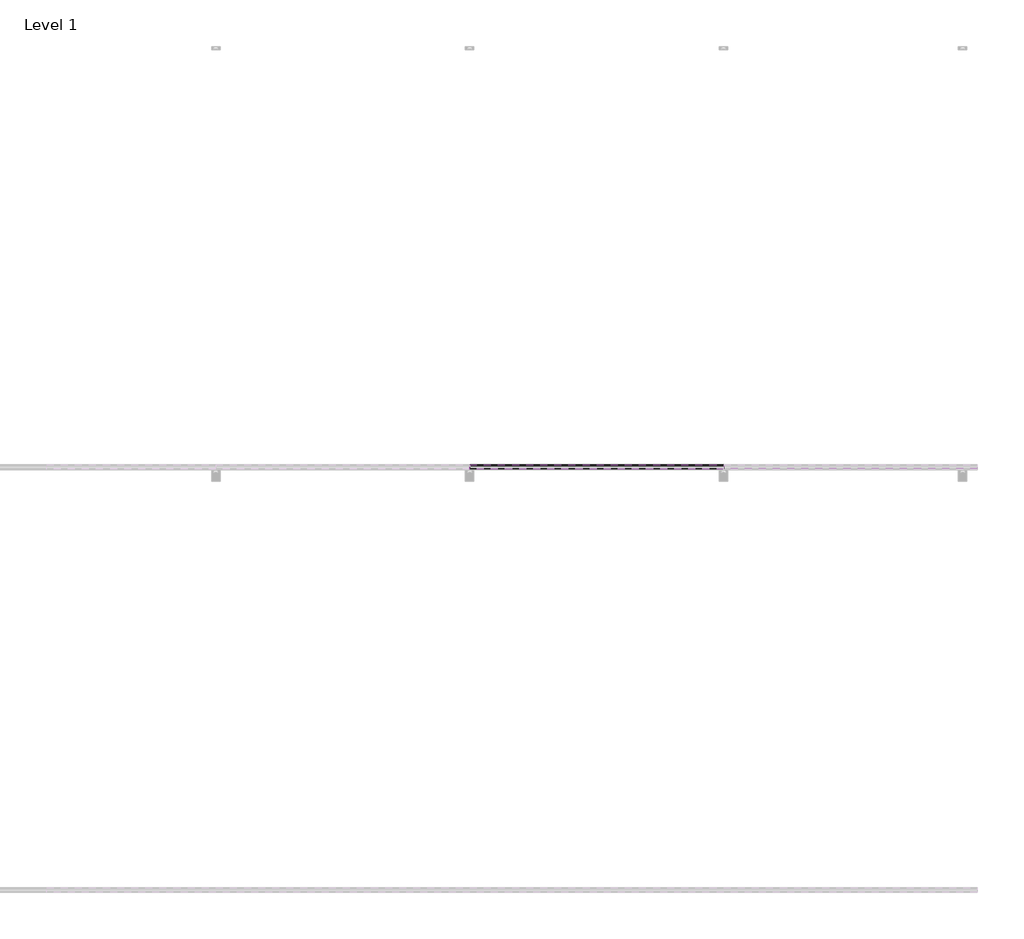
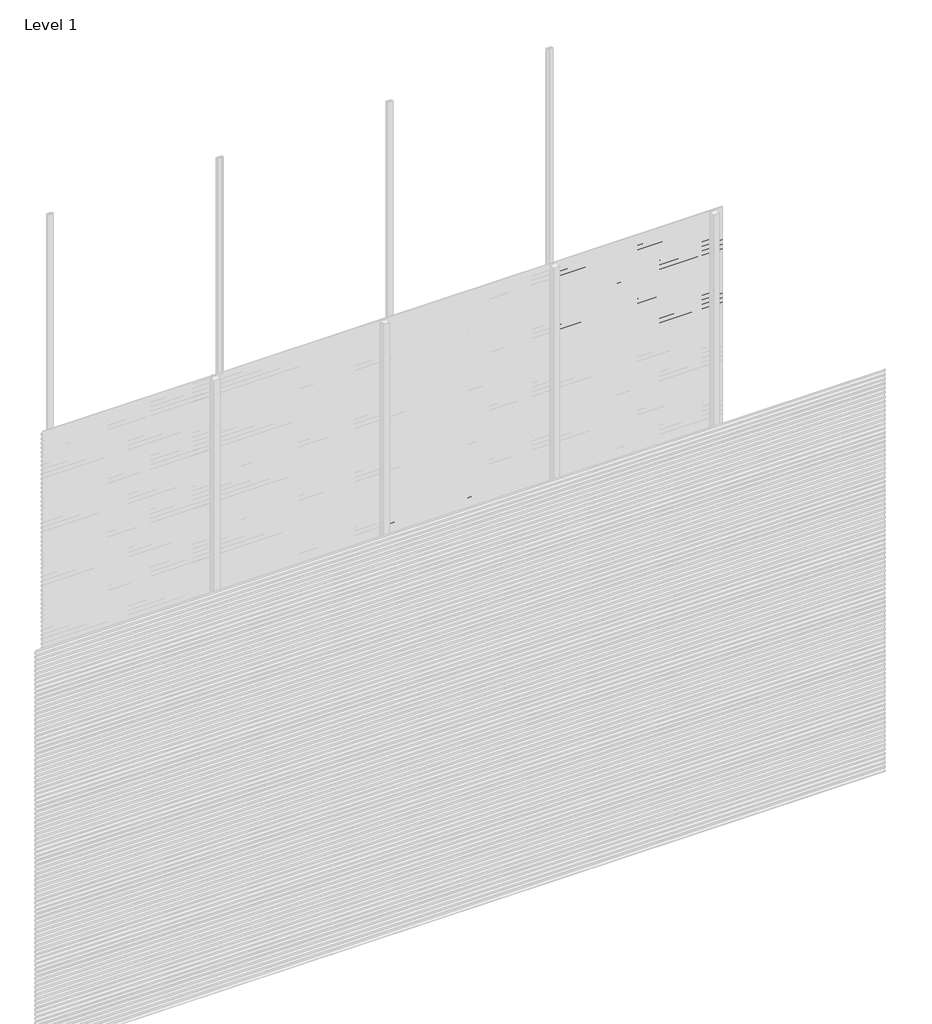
# One storey, part 39 of 77: 72 proxies.
"""IFC4 building model written with IfcOpenShell, lengths in millimetres."""

from ifc_helpers import new_model, si_unit, frame, origin, place, context, project, spatial, polyline, outline, extrude, element, save

model = new_model("IFC4")

# Units and contexts
model_context = context("Model", 3, world=origin())
ifc_project = project(units=[si_unit("LENGTHUNIT", "METRE", prefix="MILLI")], contexts=[model_context])

# Site, building, storey
site = spatial("IfcSite", under=ifc_project)
building = spatial("IfcBuilding", under=site)
storey = spatial("IfcBuildingStorey", under=building, Name="Level 1", Elevation=0.0)

# Proxies
placement = place(None, origin())
element("IfcBuildingElementProxy", 1, Name="Wall Sweeps", at=placement, inside=storey, context=model_context, shape_type="SweptSolid", body=[
    extrude(outline(polyline([(-29978.6, 1607.2359887), (-29998.0, 1618.4366691), (-29998.0, 1631.7), (-29997.0, 1631.7), (-29997.0, 1619.0191057), (-29977.6, 1607.8185105), (-29977.6, 1594.2185105), (-29978.6, 1595.7953129), (-29978.6, 1601.6032062), (-29995.9773817, 1593.5), (-29996.4, 1594.4063078), (-29978.6, 1602.7065841), (-29978.6, 1607.2359887)])), frame((3600.0, 0.0, 0.0), z_axis=(1.0, 0.0, 0.0), x_axis=(0.0, 1.0, 0.0)), (0.0, 0.0, 1.0), 1200.0),
])
element("IfcBuildingElementProxy", 2, Name="Wall Sweeps", at=placement, inside=storey, context=model_context, shape_type="SweptSolid", body=[
    extrude(outline(polyline([(-29978.6, 1573.9359887), (-29998.0, 1585.1366691), (-29998.0, 1598.4), (-29997.0, 1598.4), (-29997.0, 1585.7191057), (-29977.6, 1574.5185105), (-29977.6, 1560.9185105), (-29978.6, 1562.4953129), (-29978.6, 1568.3032062), (-29995.9773817, 1560.2), (-29996.4, 1561.1063078), (-29978.6, 1569.4065841), (-29978.6, 1573.9359887)])), frame((3600.0, 0.0, 0.0), z_axis=(1.0, 0.0, 0.0), x_axis=(0.0, 1.0, 0.0)), (0.0, 0.0, 1.0), 1200.0),
])
element("IfcBuildingElementProxy", 3, Name="Wall Sweeps", at=placement, inside=storey, context=model_context, shape_type="SweptSolid", body=[
    extrude(outline(polyline([(-29978.6, 1540.6359887), (-29998.0, 1551.8366691), (-29998.0, 1565.1), (-29997.0, 1565.1), (-29997.0, 1552.4191057), (-29977.6, 1541.2185105), (-29977.6, 1527.6185105), (-29978.6, 1529.1953129), (-29978.6, 1535.0032062), (-29995.9773817, 1526.9), (-29996.4, 1527.8063078), (-29978.6, 1536.1065841), (-29978.6, 1540.6359887)])), frame((3600.0, 0.0, 0.0), z_axis=(1.0, 0.0, 0.0), x_axis=(0.0, 1.0, 0.0)), (0.0, 0.0, 1.0), 1200.0),
])
element("IfcBuildingElementProxy", 4, Name="Wall Sweeps", at=placement, inside=storey, context=model_context, shape_type="SweptSolid", body=[
    extrude(outline(polyline([(-29978.6, 1507.3359887), (-29998.0, 1518.5366691), (-29998.0, 1531.8), (-29997.0, 1531.8), (-29997.0, 1519.1191057), (-29977.6, 1507.9185105), (-29977.6, 1494.3185105), (-29978.6, 1495.8953129), (-29978.6, 1501.7032062), (-29995.9773817, 1493.6), (-29996.4, 1494.5063078), (-29978.6, 1502.8065841), (-29978.6, 1507.3359887)])), frame((3600.0, 0.0, 0.0), z_axis=(1.0, 0.0, 0.0), x_axis=(0.0, 1.0, 0.0)), (0.0, 0.0, 1.0), 1200.0),
])
element("IfcBuildingElementProxy", 5, Name="Wall Sweeps", at=placement, inside=storey, context=model_context, shape_type="SweptSolid", body=[
    extrude(outline(polyline([(-29978.6, 1474.0359887), (-29998.0, 1485.2366691), (-29998.0, 1498.5), (-29997.0, 1498.5), (-29997.0, 1485.8191057), (-29977.6, 1474.6185105), (-29977.6, 1461.0185105), (-29978.6, 1462.5953129), (-29978.6, 1468.4032062), (-29995.9773817, 1460.3), (-29996.4, 1461.2063078), (-29978.6, 1469.5065841), (-29978.6, 1474.0359887)])), frame((3600.0, 0.0, 0.0), z_axis=(1.0, 0.0, 0.0), x_axis=(0.0, 1.0, 0.0)), (0.0, 0.0, 1.0), 1200.0),
])
element("IfcBuildingElementProxy", 6, Name="Wall Sweeps", at=placement, inside=storey, context=model_context, shape_type="SweptSolid", body=[
    extrude(outline(polyline([(-29978.6, 1440.7359887), (-29998.0, 1451.9366691), (-29998.0, 1465.2), (-29997.0, 1465.2), (-29997.0, 1452.5191057), (-29977.6, 1441.3185105), (-29977.6, 1427.7185105), (-29978.6, 1429.2953129), (-29978.6, 1435.1032062), (-29995.9773817, 1427.0), (-29996.4, 1427.9063078), (-29978.6, 1436.2065841), (-29978.6, 1440.7359887)])), frame((3600.0, 0.0, 0.0), z_axis=(1.0, 0.0, 0.0), x_axis=(0.0, 1.0, 0.0)), (0.0, 0.0, 1.0), 1200.0),
])
element("IfcBuildingElementProxy", 7, Name="Wall Sweeps", at=placement, inside=storey, context=model_context, shape_type="SweptSolid", body=[
    extrude(outline(polyline([(-29978.6, 1407.4359887), (-29998.0, 1418.6366691), (-29998.0, 1431.9), (-29997.0, 1431.9), (-29997.0, 1419.2191057), (-29977.6, 1408.0185105), (-29977.6, 1394.4185105), (-29978.6, 1395.9953129), (-29978.6, 1401.8032062), (-29995.9773817, 1393.7), (-29996.4, 1394.6063078), (-29978.6, 1402.9065841), (-29978.6, 1407.4359887)])), frame((3600.0, 0.0, 0.0), z_axis=(1.0, 0.0, 0.0), x_axis=(0.0, 1.0, 0.0)), (0.0, 0.0, 1.0), 1200.0),
])
element("IfcBuildingElementProxy", 8, Name="Wall Sweeps", at=placement, inside=storey, context=model_context, shape_type="SweptSolid", body=[
    extrude(outline(polyline([(-29978.6, 1374.1359887), (-29998.0, 1385.3366691), (-29998.0, 1398.6), (-29997.0, 1398.6), (-29997.0, 1385.9191057), (-29977.6, 1374.7185105), (-29977.6, 1361.1185105), (-29978.6, 1362.6953129), (-29978.6, 1368.5032062), (-29995.9773817, 1360.4), (-29996.4, 1361.3063078), (-29978.6, 1369.6065841), (-29978.6, 1374.1359887)])), frame((3600.0, 0.0, 0.0), z_axis=(1.0, 0.0, 0.0), x_axis=(0.0, 1.0, 0.0)), (0.0, 0.0, 1.0), 1200.0),
])
element("IfcBuildingElementProxy", 9, Name="Wall Sweeps", at=placement, inside=storey, context=model_context, shape_type="SweptSolid", body=[
    extrude(outline(polyline([(-29978.6, 1340.8359887), (-29998.0, 1352.0366691), (-29998.0, 1365.3), (-29997.0, 1365.3), (-29997.0, 1352.6191057), (-29977.6, 1341.4185105), (-29977.6, 1327.8185105), (-29978.6, 1329.3953129), (-29978.6, 1335.2032062), (-29995.9773817, 1327.1), (-29996.4, 1328.0063078), (-29978.6, 1336.3065841), (-29978.6, 1340.8359887)])), frame((3600.0, 0.0, 0.0), z_axis=(1.0, 0.0, 0.0), x_axis=(0.0, 1.0, 0.0)), (0.0, 0.0, 1.0), 1200.0),
])
element("IfcBuildingElementProxy", 10, Name="Wall Sweeps", at=placement, inside=storey, context=model_context, shape_type="SweptSolid", body=[
    extrude(outline(polyline([(-29978.6, 1307.5359887), (-29998.0, 1318.7366691), (-29998.0, 1332.0), (-29997.0, 1332.0), (-29997.0, 1319.3191057), (-29977.6, 1308.1185105), (-29977.6, 1294.5185105), (-29978.6, 1296.0953129), (-29978.6, 1301.9032062), (-29995.9773817, 1293.8), (-29996.4, 1294.7063078), (-29978.6, 1303.0065841), (-29978.6, 1307.5359887)])), frame((3600.0, 0.0, 0.0), z_axis=(1.0, 0.0, 0.0), x_axis=(0.0, 1.0, 0.0)), (0.0, 0.0, 1.0), 1200.0),
])
element("IfcBuildingElementProxy", 11, Name="Wall Sweeps", at=placement, inside=storey, context=model_context, shape_type="SweptSolid", body=[
    extrude(outline(polyline([(-29978.6, 1274.2359887), (-29998.0, 1285.4366691), (-29998.0, 1298.7), (-29997.0, 1298.7), (-29997.0, 1286.0191057), (-29977.6, 1274.8185105), (-29977.6, 1261.2185105), (-29978.6, 1262.7953129), (-29978.6, 1268.6032062), (-29995.9773817, 1260.5), (-29996.4, 1261.4063078), (-29978.6, 1269.7065841), (-29978.6, 1274.2359887)])), frame((3600.0, 0.0, 0.0), z_axis=(1.0, 0.0, 0.0), x_axis=(0.0, 1.0, 0.0)), (0.0, 0.0, 1.0), 1200.0),
])
element("IfcBuildingElementProxy", 12, Name="Wall Sweeps", at=placement, inside=storey, context=model_context, shape_type="SweptSolid", body=[
    extrude(outline(polyline([(-29978.6, 1240.9359887), (-29998.0, 1252.1366691), (-29998.0, 1265.4), (-29997.0, 1265.4), (-29997.0, 1252.7191057), (-29977.6, 1241.5185105), (-29977.6, 1227.9185105), (-29978.6, 1229.4953129), (-29978.6, 1235.3032062), (-29995.9773817, 1227.2), (-29996.4, 1228.1063078), (-29978.6, 1236.4065841), (-29978.6, 1240.9359887)])), frame((3600.0, 0.0, 0.0), z_axis=(1.0, 0.0, 0.0), x_axis=(0.0, 1.0, 0.0)), (0.0, 0.0, 1.0), 1200.0),
])
element("IfcBuildingElementProxy", 13, Name="Wall Sweeps", at=placement, inside=storey, context=model_context, shape_type="SweptSolid", body=[
    extrude(outline(polyline([(-29978.6, 1207.6359887), (-29998.0, 1218.8366691), (-29998.0, 1232.1), (-29997.0, 1232.1), (-29997.0, 1219.4191057), (-29977.6, 1208.2185105), (-29977.6, 1194.6185105), (-29978.6, 1196.1953129), (-29978.6, 1202.0032062), (-29995.9773817, 1193.9), (-29996.4, 1194.8063078), (-29978.6, 1203.1065841), (-29978.6, 1207.6359887)])), frame((3600.0, 0.0, 0.0), z_axis=(1.0, 0.0, 0.0), x_axis=(0.0, 1.0, 0.0)), (0.0, 0.0, 1.0), 1200.0),
])
element("IfcBuildingElementProxy", 14, Name="Wall Sweeps", at=placement, inside=storey, context=model_context, shape_type="SweptSolid", body=[
    extrude(outline(polyline([(-29978.6, 1174.3359887), (-29998.0, 1185.5366691), (-29998.0, 1198.8), (-29997.0, 1198.8), (-29997.0, 1186.1191057), (-29977.6, 1174.9185105), (-29977.6, 1161.3185105), (-29978.6, 1162.8953129), (-29978.6, 1168.7032062), (-29995.9773817, 1160.6), (-29996.4, 1161.5063078), (-29978.6, 1169.8065841), (-29978.6, 1174.3359887)])), frame((3600.0, 0.0, 0.0), z_axis=(1.0, 0.0, 0.0), x_axis=(0.0, 1.0, 0.0)), (0.0, 0.0, 1.0), 1200.0),
])
element("IfcBuildingElementProxy", 15, Name="Wall Sweeps", at=placement, inside=storey, context=model_context, shape_type="SweptSolid", body=[
    extrude(outline(polyline([(-29978.6, 1141.0359887), (-29998.0, 1152.2366691), (-29998.0, 1165.5), (-29997.0, 1165.5), (-29997.0, 1152.8191057), (-29977.6, 1141.6185105), (-29977.6, 1128.0185105), (-29978.6, 1129.5953129), (-29978.6, 1135.4032062), (-29995.9773817, 1127.3), (-29996.4, 1128.2063078), (-29978.6, 1136.5065841), (-29978.6, 1141.0359887)])), frame((3600.0, 0.0, 0.0), z_axis=(1.0, 0.0, 0.0), x_axis=(0.0, 1.0, 0.0)), (0.0, 0.0, 1.0), 1200.0),
])
element("IfcBuildingElementProxy", 16, Name="Wall Sweeps", at=placement, inside=storey, context=model_context, shape_type="SweptSolid", body=[
    extrude(outline(polyline([(-29978.6, 1107.7359887), (-29998.0, 1118.9366691), (-29998.0, 1132.2), (-29997.0, 1132.2), (-29997.0, 1119.5191057), (-29977.6, 1108.3185105), (-29977.6, 1094.7185105), (-29978.6, 1096.2953129), (-29978.6, 1102.1032062), (-29995.9773817, 1094.0), (-29996.4, 1094.9063078), (-29978.6, 1103.2065841), (-29978.6, 1107.7359887)])), frame((3600.0, 0.0, 0.0), z_axis=(1.0, 0.0, 0.0), x_axis=(0.0, 1.0, 0.0)), (0.0, 0.0, 1.0), 1200.0),
])
element("IfcBuildingElementProxy", 17, Name="Wall Sweeps", at=placement, inside=storey, context=model_context, shape_type="SweptSolid", body=[
    extrude(outline(polyline([(-29978.6, 1074.4359887), (-29998.0, 1085.6366691), (-29998.0, 1098.9), (-29997.0, 1098.9), (-29997.0, 1086.2191057), (-29977.6, 1075.0185105), (-29977.6, 1061.4185105), (-29978.6, 1062.9953129), (-29978.6, 1068.8032062), (-29995.9773817, 1060.7), (-29996.4, 1061.6063078), (-29978.6, 1069.9065841), (-29978.6, 1074.4359887)])), frame((3600.0, 0.0, 0.0), z_axis=(1.0, 0.0, 0.0), x_axis=(0.0, 1.0, 0.0)), (0.0, 0.0, 1.0), 1200.0),
])
element("IfcBuildingElementProxy", 18, Name="Wall Sweeps", at=placement, inside=storey, context=model_context, shape_type="SweptSolid", body=[
    extrude(outline(polyline([(-29978.6, 1041.1359887), (-29998.0, 1052.3366691), (-29998.0, 1065.6), (-29997.0, 1065.6), (-29997.0, 1052.9191057), (-29977.6, 1041.7185105), (-29977.6, 1028.1185105), (-29978.6, 1029.6953129), (-29978.6, 1035.5032062), (-29995.9773817, 1027.4), (-29996.4, 1028.3063078), (-29978.6, 1036.6065841), (-29978.6, 1041.1359887)])), frame((3600.0, 0.0, 0.0), z_axis=(1.0, 0.0, 0.0), x_axis=(0.0, 1.0, 0.0)), (0.0, 0.0, 1.0), 1200.0),
])
element("IfcBuildingElementProxy", 19, Name="Wall Sweeps", at=placement, inside=storey, context=model_context, shape_type="SweptSolid", body=[
    extrude(outline(polyline([(-29978.6, 1007.8359887), (-29998.0, 1019.0366691), (-29998.0, 1032.3), (-29997.0, 1032.3), (-29997.0, 1019.6191057), (-29977.6, 1008.4185105), (-29977.6, 994.8185105), (-29978.6, 996.3953129), (-29978.6, 1002.2032062), (-29995.9773817, 994.1), (-29996.4, 995.0063078), (-29978.6, 1003.3065841), (-29978.6, 1007.8359887)])), frame((3600.0, 0.0, 0.0), z_axis=(1.0, 0.0, 0.0), x_axis=(0.0, 1.0, 0.0)), (0.0, 0.0, 1.0), 1200.0),
])
element("IfcBuildingElementProxy", 20, Name="Wall Sweeps", at=placement, inside=storey, context=model_context, shape_type="SweptSolid", body=[
    extrude(outline(polyline([(-29978.6, 974.5359887), (-29998.0, 985.7366691), (-29998.0, 999.0), (-29997.0, 999.0), (-29997.0, 986.3191057), (-29977.6, 975.1185105), (-29977.6, 961.5185105), (-29978.6, 963.0953129), (-29978.6, 968.9032062), (-29995.9773817, 960.8), (-29996.4, 961.7063078), (-29978.6, 970.0065841), (-29978.6, 974.5359887)])), frame((3600.0, 0.0, 0.0), z_axis=(1.0, 0.0, 0.0), x_axis=(0.0, 1.0, 0.0)), (0.0, 0.0, 1.0), 1200.0),
])
element("IfcBuildingElementProxy", 21, Name="Wall Sweeps", at=placement, inside=storey, context=model_context, shape_type="SweptSolid", body=[
    extrude(outline(polyline([(-29978.6, 941.2359887), (-29998.0, 952.4366691), (-29998.0, 965.7), (-29997.0, 965.7), (-29997.0, 953.0191057), (-29977.6, 941.8185105), (-29977.6, 928.2185105), (-29978.6, 929.7953129), (-29978.6, 935.6032062), (-29995.9773817, 927.5), (-29996.4, 928.4063078), (-29978.6, 936.7065841), (-29978.6, 941.2359887)])), frame((3600.0, 0.0, 0.0), z_axis=(1.0, 0.0, 0.0), x_axis=(0.0, 1.0, 0.0)), (0.0, 0.0, 1.0), 1200.0),
])
element("IfcBuildingElementProxy", 22, Name="Wall Sweeps", at=placement, inside=storey, context=model_context, shape_type="SweptSolid", body=[
    extrude(outline(polyline([(-29978.6, 907.9359887), (-29998.0, 919.1366691), (-29998.0, 932.4), (-29997.0, 932.4), (-29997.0, 919.7191057), (-29977.6, 908.5185105), (-29977.6, 894.9185105), (-29978.6, 896.4953129), (-29978.6, 902.3032062), (-29995.9773817, 894.2), (-29996.4, 895.1063078), (-29978.6, 903.4065841), (-29978.6, 907.9359887)])), frame((3600.0, 0.0, 0.0), z_axis=(1.0, 0.0, 0.0), x_axis=(0.0, 1.0, 0.0)), (0.0, 0.0, 1.0), 1200.0),
])
element("IfcBuildingElementProxy", 23, Name="Wall Sweeps", at=placement, inside=storey, context=model_context, shape_type="SweptSolid", body=[
    extrude(outline(polyline([(-29978.6, 874.6359887), (-29998.0, 885.8366691), (-29998.0, 899.1), (-29997.0, 899.1), (-29997.0, 886.4191057), (-29977.6, 875.2185105), (-29977.6, 861.6185105), (-29978.6, 863.1953129), (-29978.6, 869.0032062), (-29995.9773817, 860.9), (-29996.4, 861.8063078), (-29978.6, 870.1065841), (-29978.6, 874.6359887)])), frame((3600.0, 0.0, 0.0), z_axis=(1.0, 0.0, 0.0), x_axis=(0.0, 1.0, 0.0)), (0.0, 0.0, 1.0), 1200.0),
])
element("IfcBuildingElementProxy", 24, Name="Wall Sweeps", at=placement, inside=storey, context=model_context, shape_type="SweptSolid", body=[
    extrude(outline(polyline([(-29978.6, 841.3359887), (-29998.0, 852.5366691), (-29998.0, 865.8), (-29997.0, 865.8), (-29997.0, 853.1191057), (-29977.6, 841.9185105), (-29977.6, 828.3185105), (-29978.6, 829.8953129), (-29978.6, 835.7032062), (-29995.9773817, 827.6), (-29996.4, 828.5063078), (-29978.6, 836.8065841), (-29978.6, 841.3359887)])), frame((3600.0, 0.0, 0.0), z_axis=(1.0, 0.0, 0.0), x_axis=(0.0, 1.0, 0.0)), (0.0, 0.0, 1.0), 1200.0),
])
element("IfcBuildingElementProxy", 25, Name="Wall Sweeps", at=placement, inside=storey, context=model_context, shape_type="SweptSolid", body=[
    extrude(outline(polyline([(-29978.6, 808.0359887), (-29998.0, 819.2366691), (-29998.0, 832.5), (-29997.0, 832.5), (-29997.0, 819.8191057), (-29977.6, 808.6185105), (-29977.6, 795.0185105), (-29978.6, 796.5953129), (-29978.6, 802.4032062), (-29995.9773817, 794.3), (-29996.4, 795.2063078), (-29978.6, 803.5065841), (-29978.6, 808.0359887)])), frame((3600.0, 0.0, 0.0), z_axis=(1.0, 0.0, 0.0), x_axis=(0.0, 1.0, 0.0)), (0.0, 0.0, 1.0), 1200.0),
])
element("IfcBuildingElementProxy", 26, Name="Wall Sweeps", at=placement, inside=storey, context=model_context, shape_type="SweptSolid", body=[
    extrude(outline(polyline([(-29978.6, 774.7359887), (-29998.0, 785.9366691), (-29998.0, 799.2), (-29997.0, 799.2), (-29997.0, 786.5191057), (-29977.6, 775.3185105), (-29977.6, 761.7185105), (-29978.6, 763.2953129), (-29978.6, 769.1032062), (-29995.9773817, 761.0), (-29996.4, 761.9063078), (-29978.6, 770.2065841), (-29978.6, 774.7359887)])), frame((3600.0, 0.0, 0.0), z_axis=(1.0, 0.0, 0.0), x_axis=(0.0, 1.0, 0.0)), (0.0, 0.0, 1.0), 1200.0),
])
element("IfcBuildingElementProxy", 27, Name="Wall Sweeps", at=placement, inside=storey, context=model_context, shape_type="SweptSolid", body=[
    extrude(outline(polyline([(-29978.6, 741.4359887), (-29998.0, 752.6366691), (-29998.0, 765.9), (-29997.0, 765.9), (-29997.0, 753.2191057), (-29977.6, 742.0185105), (-29977.6, 728.4185105), (-29978.6, 729.9953129), (-29978.6, 735.8032062), (-29995.9773817, 727.7), (-29996.4, 728.6063078), (-29978.6, 736.9065841), (-29978.6, 741.4359887)])), frame((3600.0, 0.0, 0.0), z_axis=(1.0, 0.0, 0.0), x_axis=(0.0, 1.0, 0.0)), (0.0, 0.0, 1.0), 1200.0),
])
element("IfcBuildingElementProxy", 28, Name="Wall Sweeps", at=placement, inside=storey, context=model_context, shape_type="SweptSolid", body=[
    extrude(outline(polyline([(-29978.6, 708.1359887), (-29998.0, 719.3366691), (-29998.0, 732.6), (-29997.0, 732.6), (-29997.0, 719.9191057), (-29977.6, 708.7185105), (-29977.6, 695.1185105), (-29978.6, 696.6953129), (-29978.6, 702.5032062), (-29995.9773817, 694.4), (-29996.4, 695.3063078), (-29978.6, 703.6065841), (-29978.6, 708.1359887)])), frame((3600.0, 0.0, 0.0), z_axis=(1.0, 0.0, 0.0), x_axis=(0.0, 1.0, 0.0)), (0.0, 0.0, 1.0), 1200.0),
])
element("IfcBuildingElementProxy", 29, Name="Wall Sweeps", at=placement, inside=storey, context=model_context, shape_type="SweptSolid", body=[
    extrude(outline(polyline([(-29978.6, 674.8359887), (-29998.0, 686.0366691), (-29998.0, 699.3), (-29997.0, 699.3), (-29997.0, 686.6191057), (-29977.6, 675.4185105), (-29977.6, 661.8185105), (-29978.6, 663.3953129), (-29978.6, 669.2032062), (-29995.9773817, 661.1), (-29996.4, 662.0063078), (-29978.6, 670.3065841), (-29978.6, 674.8359887)])), frame((3600.0, 0.0, 0.0), z_axis=(1.0, 0.0, 0.0), x_axis=(0.0, 1.0, 0.0)), (0.0, 0.0, 1.0), 1200.0),
])
element("IfcBuildingElementProxy", 30, Name="Wall Sweeps", at=placement, inside=storey, context=model_context, shape_type="SweptSolid", body=[
    extrude(outline(polyline([(-29978.6, 641.5359887), (-29998.0, 652.7366691), (-29998.0, 666.0), (-29997.0, 666.0), (-29997.0, 653.3191057), (-29977.6, 642.1185105), (-29977.6, 628.5185105), (-29978.6, 630.0953129), (-29978.6, 635.9032062), (-29995.9773817, 627.8), (-29996.4, 628.7063078), (-29978.6, 637.0065841), (-29978.6, 641.5359887)])), frame((3600.0, 0.0, 0.0), z_axis=(1.0, 0.0, 0.0), x_axis=(0.0, 1.0, 0.0)), (0.0, 0.0, 1.0), 1200.0),
])
element("IfcBuildingElementProxy", 31, Name="Wall Sweeps", at=placement, inside=storey, context=model_context, shape_type="SweptSolid", body=[
    extrude(outline(polyline([(-29978.6, 608.2359887), (-29998.0, 619.4366691), (-29998.0, 632.7), (-29997.0, 632.7), (-29997.0, 620.0191057), (-29977.6, 608.8185105), (-29977.6, 595.2185105), (-29978.6, 596.7953129), (-29978.6, 602.6032062), (-29995.9773817, 594.5), (-29996.4, 595.4063078), (-29978.6, 603.7065841), (-29978.6, 608.2359887)])), frame((3600.0, 0.0, 0.0), z_axis=(1.0, 0.0, 0.0), x_axis=(0.0, 1.0, 0.0)), (0.0, 0.0, 1.0), 1200.0),
])
element("IfcBuildingElementProxy", 32, Name="Wall Sweeps", at=placement, inside=storey, context=model_context, shape_type="SweptSolid", body=[
    extrude(outline(polyline([(-29978.6, 574.9359887), (-29998.0, 586.1366691), (-29998.0, 599.4), (-29997.0, 599.4), (-29997.0, 586.7191057), (-29977.6, 575.5185105), (-29977.6, 561.9185105), (-29978.6, 563.4953129), (-29978.6, 569.3032062), (-29995.9773817, 561.2), (-29996.4, 562.1063078), (-29978.6, 570.4065841), (-29978.6, 574.9359887)])), frame((3600.0, 0.0, 0.0), z_axis=(1.0, 0.0, 0.0), x_axis=(0.0, 1.0, 0.0)), (0.0, 0.0, 1.0), 1200.0),
])
element("IfcBuildingElementProxy", 33, Name="Wall Sweeps", at=placement, inside=storey, context=model_context, shape_type="SweptSolid", body=[
    extrude(outline(polyline([(-29978.6, 541.6359887), (-29998.0, 552.8366691), (-29998.0, 566.1), (-29997.0, 566.1), (-29997.0, 553.4191057), (-29977.6, 542.2185105), (-29977.6, 528.6185105), (-29978.6, 530.1953129), (-29978.6, 536.0032062), (-29995.9773817, 527.9), (-29996.4, 528.8063078), (-29978.6, 537.1065841), (-29978.6, 541.6359887)])), frame((3600.0, 0.0, 0.0), z_axis=(1.0, 0.0, 0.0), x_axis=(0.0, 1.0, 0.0)), (0.0, 0.0, 1.0), 1200.0),
])
element("IfcBuildingElementProxy", 34, Name="Wall Sweeps", at=placement, inside=storey, context=model_context, shape_type="SweptSolid", body=[
    extrude(outline(polyline([(-29978.6, 508.3359887), (-29998.0, 519.5366691), (-29998.0, 532.8), (-29997.0, 532.8), (-29997.0, 520.1191057), (-29977.6, 508.9185105), (-29977.6, 495.3185105), (-29978.6, 496.8953129), (-29978.6, 502.7032062), (-29995.9773817, 494.6), (-29996.4, 495.5063078), (-29978.6, 503.8065841), (-29978.6, 508.3359887)])), frame((3600.0, 0.0, 0.0), z_axis=(1.0, 0.0, 0.0), x_axis=(0.0, 1.0, 0.0)), (0.0, 0.0, 1.0), 1200.0),
])
element("IfcBuildingElementProxy", 35, Name="Wall Sweeps", at=placement, inside=storey, context=model_context, shape_type="SweptSolid", body=[
    extrude(outline(polyline([(-29978.6, 475.0359887), (-29998.0, 486.2366691), (-29998.0, 499.5), (-29997.0, 499.5), (-29997.0, 486.8191057), (-29977.6, 475.6185105), (-29977.6, 462.0185105), (-29978.6, 463.5953129), (-29978.6, 469.4032062), (-29995.9773817, 461.3), (-29996.4, 462.2063078), (-29978.6, 470.5065841), (-29978.6, 475.0359887)])), frame((3600.0, 0.0, 0.0), z_axis=(1.0, 0.0, 0.0), x_axis=(0.0, 1.0, 0.0)), (0.0, 0.0, 1.0), 1200.0),
])
element("IfcBuildingElementProxy", 36, Name="Wall Sweeps", at=placement, inside=storey, context=model_context, shape_type="SweptSolid", body=[
    extrude(outline(polyline([(-29978.6, 441.7359887), (-29998.0, 452.9366691), (-29998.0, 466.2), (-29997.0, 466.2), (-29997.0, 453.5191057), (-29977.6, 442.3185105), (-29977.6, 428.7185105), (-29978.6, 430.2953129), (-29978.6, 436.1032062), (-29995.9773817, 428.0), (-29996.4, 428.9063078), (-29978.6, 437.2065841), (-29978.6, 441.7359887)])), frame((3600.0, 0.0, 0.0), z_axis=(1.0, 0.0, 0.0), x_axis=(0.0, 1.0, 0.0)), (0.0, 0.0, 1.0), 1200.0),
])
element("IfcBuildingElementProxy", 37, Name="Wall Sweeps", at=placement, inside=storey, context=model_context, shape_type="SweptSolid", body=[
    extrude(outline(polyline([(-29978.6, 408.4359887), (-29998.0, 419.6366691), (-29998.0, 432.9), (-29997.0, 432.9), (-29997.0, 420.2191057), (-29977.6, 409.0185105), (-29977.6, 395.4185105), (-29978.6, 396.9953129), (-29978.6, 402.8032062), (-29995.9773817, 394.7), (-29996.4, 395.6063078), (-29978.6, 403.9065841), (-29978.6, 408.4359887)])), frame((3600.0, 0.0, 0.0), z_axis=(1.0, 0.0, 0.0), x_axis=(0.0, 1.0, 0.0)), (0.0, 0.0, 1.0), 1200.0),
])
element("IfcBuildingElementProxy", 38, Name="Wall Sweeps", at=placement, inside=storey, context=model_context, shape_type="SweptSolid", body=[
    extrude(outline(polyline([(-29978.6, 375.1359887), (-29998.0, 386.3366691), (-29998.0, 399.6), (-29997.0, 399.6), (-29997.0, 386.9191057), (-29977.6, 375.7185105), (-29977.6, 362.1185105), (-29978.6, 363.6953129), (-29978.6, 369.5032062), (-29995.9773817, 361.4), (-29996.4, 362.3063078), (-29978.6, 370.6065841), (-29978.6, 375.1359887)])), frame((3600.0, 0.0, 0.0), z_axis=(1.0, 0.0, 0.0), x_axis=(0.0, 1.0, 0.0)), (0.0, 0.0, 1.0), 1200.0),
])
element("IfcBuildingElementProxy", 39, Name="Wall Sweeps", at=placement, inside=storey, context=model_context, shape_type="SweptSolid", body=[
    extrude(outline(polyline([(-29978.6, 341.8359887), (-29998.0, 353.0366691), (-29998.0, 366.3), (-29997.0, 366.3), (-29997.0, 353.6191057), (-29977.6, 342.4185105), (-29977.6, 328.8185105), (-29978.6, 330.3953129), (-29978.6, 336.2032062), (-29995.9773817, 328.1), (-29996.4, 329.0063078), (-29978.6, 337.3065841), (-29978.6, 341.8359887)])), frame((3600.0, 0.0, 0.0), z_axis=(1.0, 0.0, 0.0), x_axis=(0.0, 1.0, 0.0)), (0.0, 0.0, 1.0), 1200.0),
])
element("IfcBuildingElementProxy", 40, Name="Wall Sweeps", at=placement, inside=storey, context=model_context, shape_type="SweptSolid", body=[
    extrude(outline(polyline([(-29978.6, 308.5359887), (-29998.0, 319.7366691), (-29998.0, 333.0), (-29997.0, 333.0), (-29997.0, 320.3191057), (-29977.6, 309.1185105), (-29977.6, 295.5185105), (-29978.6, 297.0953129), (-29978.6, 302.9032062), (-29995.9773817, 294.8), (-29996.4, 295.7063078), (-29978.6, 304.0065841), (-29978.6, 308.5359887)])), frame((3600.0, 0.0, 0.0), z_axis=(1.0, 0.0, 0.0), x_axis=(0.0, 1.0, 0.0)), (0.0, 0.0, 1.0), 1200.0),
])
element("IfcBuildingElementProxy", 41, Name="Wall Sweeps", at=placement, inside=storey, context=model_context, shape_type="SweptSolid", body=[
    extrude(outline(polyline([(-29978.6, 275.2359887), (-29998.0, 286.4366691), (-29998.0, 299.7), (-29997.0, 299.7), (-29997.0, 287.0191057), (-29977.6, 275.8185105), (-29977.6, 262.2185105), (-29978.6, 263.7953129), (-29978.6, 269.6032062), (-29995.9773817, 261.5), (-29996.4, 262.4063078), (-29978.6, 270.7065841), (-29978.6, 275.2359887)])), frame((3600.0, 0.0, 0.0), z_axis=(1.0, 0.0, 0.0), x_axis=(0.0, 1.0, 0.0)), (0.0, 0.0, 1.0), 1200.0),
])
element("IfcBuildingElementProxy", 42, Name="Wall Sweeps", at=placement, inside=storey, context=model_context, shape_type="SweptSolid", body=[
    extrude(outline(polyline([(-29978.6, 241.9359887), (-29998.0, 253.1366691), (-29998.0, 266.4), (-29997.0, 266.4), (-29997.0, 253.7191057), (-29977.6, 242.5185105), (-29977.6, 228.9185105), (-29978.6, 230.4953129), (-29978.6, 236.3032062), (-29995.9773817, 228.2), (-29996.4, 229.1063078), (-29978.6, 237.4065841), (-29978.6, 241.9359887)])), frame((3600.0, 0.0, 0.0), z_axis=(1.0, 0.0, 0.0), x_axis=(0.0, 1.0, 0.0)), (0.0, 0.0, 1.0), 1200.0),
])
element("IfcBuildingElementProxy", 43, Name="Wall Sweeps", at=placement, inside=storey, context=model_context, shape_type="SweptSolid", body=[
    extrude(outline(polyline([(-29978.6, 208.6359887), (-29998.0, 219.8366691), (-29998.0, 233.1), (-29997.0, 233.1), (-29997.0, 220.4191057), (-29977.6, 209.2185105), (-29977.6, 195.6185105), (-29978.6, 197.1953129), (-29978.6, 203.0032062), (-29995.9773817, 194.9), (-29996.4, 195.8063078), (-29978.6, 204.1065841), (-29978.6, 208.6359887)])), frame((3600.0, 0.0, 0.0), z_axis=(1.0, 0.0, 0.0), x_axis=(0.0, 1.0, 0.0)), (0.0, 0.0, 1.0), 1200.0),
])
element("IfcBuildingElementProxy", 44, Name="Wall Sweeps", at=placement, inside=storey, context=model_context, shape_type="SweptSolid", body=[
    extrude(outline(polyline([(-29978.6, 175.3359887), (-29998.0, 186.5366691), (-29998.0, 199.8), (-29997.0, 199.8), (-29997.0, 187.1191057), (-29977.6, 175.9185105), (-29977.6, 162.3185105), (-29978.6, 163.8953129), (-29978.6, 169.7032062), (-29995.9773817, 161.6), (-29996.4, 162.5063078), (-29978.6, 170.8065841), (-29978.6, 175.3359887)])), frame((3600.0, 0.0, 0.0), z_axis=(1.0, 0.0, 0.0), x_axis=(0.0, 1.0, 0.0)), (0.0, 0.0, 1.0), 1200.0),
])
element("IfcBuildingElementProxy", 45, Name="Wall Sweeps", at=placement, inside=storey, context=model_context, shape_type="SweptSolid", body=[
    extrude(outline(polyline([(-29978.6, 142.0359887), (-29998.0, 153.2366691), (-29998.0, 166.5), (-29997.0, 166.5), (-29997.0, 153.8191057), (-29977.6, 142.6185105), (-29977.6, 129.0185105), (-29978.6, 130.5953129), (-29978.6, 136.4032062), (-29995.9773817, 128.3), (-29996.4, 129.2063078), (-29978.6, 137.5065841), (-29978.6, 142.0359887)])), frame((3600.0, 0.0, 0.0), z_axis=(1.0, 0.0, 0.0), x_axis=(0.0, 1.0, 0.0)), (0.0, 0.0, 1.0), 1200.0),
])
element("IfcBuildingElementProxy", 46, Name="Wall Sweeps", at=placement, inside=storey, context=model_context, shape_type="SweptSolid", body=[
    extrude(outline(polyline([(-29978.6, 108.7359887), (-29998.0, 119.9366691), (-29998.0, 133.2), (-29997.0, 133.2), (-29997.0, 120.5191057), (-29977.6, 109.3185105), (-29977.6, 95.7185105), (-29978.6, 97.2953129), (-29978.6, 103.1032062), (-29995.9773817, 95.0), (-29996.4, 95.9063078), (-29978.6, 104.2065841), (-29978.6, 108.7359887)])), frame((3600.0, 0.0, 0.0), z_axis=(1.0, 0.0, 0.0), x_axis=(0.0, 1.0, 0.0)), (0.0, 0.0, 1.0), 1200.0),
])
element("IfcBuildingElementProxy", 47, Name="Wall Sweeps", at=placement, inside=storey, context=model_context, shape_type="SweptSolid", body=[
    extrude(outline(polyline([(-29978.6, 75.4359887), (-29998.0, 86.6366691), (-29998.0, 99.9), (-29997.0, 99.9), (-29997.0, 87.2191057), (-29977.6, 76.0185105), (-29977.6, 62.4185105), (-29978.6, 63.9953129), (-29978.6, 69.8032062), (-29995.9773817, 61.7), (-29996.4, 62.6063078), (-29978.6, 70.9065841), (-29978.6, 75.4359887)])), frame((3600.0, 0.0, 0.0), z_axis=(1.0, 0.0, 0.0), x_axis=(0.0, 1.0, 0.0)), (0.0, 0.0, 1.0), 1200.0),
])
element("IfcBuildingElementProxy", 48, Name="Wall Sweeps", at=placement, inside=storey, context=model_context, shape_type="SweptSolid", body=[
    extrude(outline(polyline([(-29978.6, 42.1359887), (-29998.0, 53.3366691), (-29998.0, 66.6), (-29997.0, 66.6), (-29997.0, 53.9191057), (-29977.6, 42.7185105), (-29977.6, 29.1185105), (-29978.6, 30.6953129), (-29978.6, 36.5032062), (-29995.9773817, 28.4), (-29996.4, 29.3063078), (-29978.6, 37.6065841), (-29978.6, 42.1359887)])), frame((3600.0, 0.0, 0.0), z_axis=(1.0, 0.0, 0.0), x_axis=(0.0, 1.0, 0.0)), (0.0, 0.0, 1.0), 1200.0),
])
element("IfcBuildingElementProxy", 49, Name="Wall Sweeps", at=placement, inside=storey, context=model_context, shape_type="SweptSolid", body=[
    extrude(outline(polyline([(-29978.6, 8.8359887), (-29998.0, 20.0366691), (-29998.0, 33.3), (-29997.0, 33.3), (-29997.0, 20.6191057), (-29977.6, 9.4185105), (-29977.6, -4.1814895), (-29978.6, -2.6046871), (-29978.6, 3.2032062), (-29995.9773817, -4.9), (-29996.4, -3.9936922), (-29978.6, 4.3065841), (-29978.6, 8.8359887)])), frame((3600.0, 0.0, 0.0), z_axis=(1.0, 0.0, 0.0), x_axis=(0.0, 1.0, 0.0)), (0.0, 0.0, 1.0), 1200.0),
])
element("IfcBuildingElementProxy", 50, Name="Wall Sweeps", at=placement, inside=storey, context=model_context, shape_type="SweptSolid", body=[
    extrude(outline(polyline([(-29978.6, 2972.5359887), (-29998.0, 2983.7366691), (-29998.0, 2997.0), (-29997.0, 2997.0), (-29997.0, 2984.3191057), (-29977.6, 2973.1185105), (-29977.6, 2959.5185105), (-29978.6, 2961.0953129), (-29978.6, 2966.9032062), (-29995.9773817, 2958.8), (-29996.4, 2959.7063078), (-29978.6, 2968.0065841), (-29978.6, 2972.5359887)])), frame((4800.0, 0.0, 0.0), z_axis=(1.0, 0.0, 0.0), x_axis=(0.0, 1.0, 0.0)), (0.0, 0.0, 1.0), 1200.0),
])
element("IfcBuildingElementProxy", 51, Name="Wall Sweeps", at=placement, inside=storey, context=model_context, shape_type="SweptSolid", body=[
    extrude(outline(polyline([(-29978.6, 2939.2359887), (-29998.0, 2950.4366691), (-29998.0, 2963.7), (-29997.0, 2963.7), (-29997.0, 2951.0191057), (-29977.6, 2939.8185105), (-29977.6, 2926.2185105), (-29978.6, 2927.7953129), (-29978.6, 2933.6032062), (-29995.9773817, 2925.5), (-29996.4, 2926.4063078), (-29978.6, 2934.7065841), (-29978.6, 2939.2359887)])), frame((4800.0, 0.0, 0.0), z_axis=(1.0, 0.0, 0.0), x_axis=(0.0, 1.0, 0.0)), (0.0, 0.0, 1.0), 1200.0),
])
element("IfcBuildingElementProxy", 52, Name="Wall Sweeps", at=placement, inside=storey, context=model_context, shape_type="SweptSolid", body=[
    extrude(outline(polyline([(-29978.6, 2905.9359887), (-29998.0, 2917.1366691), (-29998.0, 2930.4), (-29997.0, 2930.4), (-29997.0, 2917.7191057), (-29977.6, 2906.5185105), (-29977.6, 2892.9185105), (-29978.6, 2894.4953129), (-29978.6, 2900.3032062), (-29995.9773817, 2892.2), (-29996.4, 2893.1063078), (-29978.6, 2901.4065841), (-29978.6, 2905.9359887)])), frame((4800.0, 0.0, 0.0), z_axis=(1.0, 0.0, 0.0), x_axis=(0.0, 1.0, 0.0)), (0.0, 0.0, 1.0), 1200.0),
])
element("IfcBuildingElementProxy", 53, Name="Wall Sweeps", at=placement, inside=storey, context=model_context, shape_type="SweptSolid", body=[
    extrude(outline(polyline([(-29978.6, 2872.6359887), (-29998.0, 2883.8366691), (-29998.0, 2897.1), (-29997.0, 2897.1), (-29997.0, 2884.4191057), (-29977.6, 2873.2185105), (-29977.6, 2859.6185105), (-29978.6, 2861.1953129), (-29978.6, 2867.0032062), (-29995.9773817, 2858.9), (-29996.4, 2859.8063078), (-29978.6, 2868.1065841), (-29978.6, 2872.6359887)])), frame((4800.0, 0.0, 0.0), z_axis=(1.0, 0.0, 0.0), x_axis=(0.0, 1.0, 0.0)), (0.0, 0.0, 1.0), 1200.0),
])
element("IfcBuildingElementProxy", 54, Name="Wall Sweeps", at=placement, inside=storey, context=model_context, shape_type="SweptSolid", body=[
    extrude(outline(polyline([(-29978.6, 2839.3359887), (-29998.0, 2850.5366691), (-29998.0, 2863.8), (-29997.0, 2863.8), (-29997.0, 2851.1191057), (-29977.6, 2839.9185105), (-29977.6, 2826.3185105), (-29978.6, 2827.8953129), (-29978.6, 2833.7032062), (-29995.9773817, 2825.6), (-29996.4, 2826.5063078), (-29978.6, 2834.8065841), (-29978.6, 2839.3359887)])), frame((4800.0, 0.0, 0.0), z_axis=(1.0, 0.0, 0.0), x_axis=(0.0, 1.0, 0.0)), (0.0, 0.0, 1.0), 1200.0),
])
element("IfcBuildingElementProxy", 55, Name="Wall Sweeps", at=placement, inside=storey, context=model_context, shape_type="SweptSolid", body=[
    extrude(outline(polyline([(-29978.6, 2806.0359887), (-29998.0, 2817.2366691), (-29998.0, 2830.5), (-29997.0, 2830.5), (-29997.0, 2817.8191057), (-29977.6, 2806.6185105), (-29977.6, 2793.0185105), (-29978.6, 2794.5953129), (-29978.6, 2800.4032062), (-29995.9773817, 2792.3), (-29996.4, 2793.2063078), (-29978.6, 2801.5065841), (-29978.6, 2806.0359887)])), frame((4800.0, 0.0, 0.0), z_axis=(1.0, 0.0, 0.0), x_axis=(0.0, 1.0, 0.0)), (0.0, 0.0, 1.0), 1200.0),
])
element("IfcBuildingElementProxy", 56, Name="Wall Sweeps", at=placement, inside=storey, context=model_context, shape_type="SweptSolid", body=[
    extrude(outline(polyline([(-29978.6, 2772.7359887), (-29998.0, 2783.9366691), (-29998.0, 2797.2), (-29997.0, 2797.2), (-29997.0, 2784.5191057), (-29977.6, 2773.3185105), (-29977.6, 2759.7185105), (-29978.6, 2761.2953129), (-29978.6, 2767.1032062), (-29995.9773817, 2759.0), (-29996.4, 2759.9063078), (-29978.6, 2768.2065841), (-29978.6, 2772.7359887)])), frame((4800.0, 0.0, 0.0), z_axis=(1.0, 0.0, 0.0), x_axis=(0.0, 1.0, 0.0)), (0.0, 0.0, 1.0), 1200.0),
])
element("IfcBuildingElementProxy", 57, Name="Wall Sweeps", at=placement, inside=storey, context=model_context, shape_type="SweptSolid", body=[
    extrude(outline(polyline([(-29978.6, 2739.4359887), (-29998.0, 2750.6366691), (-29998.0, 2763.9), (-29997.0, 2763.9), (-29997.0, 2751.2191057), (-29977.6, 2740.0185105), (-29977.6, 2726.4185105), (-29978.6, 2727.9953129), (-29978.6, 2733.8032062), (-29995.9773817, 2725.7), (-29996.4, 2726.6063078), (-29978.6, 2734.9065841), (-29978.6, 2739.4359887)])), frame((4800.0, 0.0, 0.0), z_axis=(1.0, 0.0, 0.0), x_axis=(0.0, 1.0, 0.0)), (0.0, 0.0, 1.0), 1200.0),
])
element("IfcBuildingElementProxy", 58, Name="Wall Sweeps", at=placement, inside=storey, context=model_context, shape_type="SweptSolid", body=[
    extrude(outline(polyline([(-29978.6, 2706.1359887), (-29998.0, 2717.3366691), (-29998.0, 2730.6), (-29997.0, 2730.6), (-29997.0, 2717.9191057), (-29977.6, 2706.7185105), (-29977.6, 2693.1185105), (-29978.6, 2694.6953129), (-29978.6, 2700.5032062), (-29995.9773817, 2692.4), (-29996.4, 2693.3063078), (-29978.6, 2701.6065841), (-29978.6, 2706.1359887)])), frame((4800.0, 0.0, 0.0), z_axis=(1.0, 0.0, 0.0), x_axis=(0.0, 1.0, 0.0)), (0.0, 0.0, 1.0), 1200.0),
])
element("IfcBuildingElementProxy", 59, Name="Wall Sweeps", at=placement, inside=storey, context=model_context, shape_type="SweptSolid", body=[
    extrude(outline(polyline([(-29978.6, 2672.8359887), (-29998.0, 2684.0366691), (-29998.0, 2697.3), (-29997.0, 2697.3), (-29997.0, 2684.6191057), (-29977.6, 2673.4185105), (-29977.6, 2659.8185105), (-29978.6, 2661.3953129), (-29978.6, 2667.2032062), (-29995.9773817, 2659.1), (-29996.4, 2660.0063078), (-29978.6, 2668.3065841), (-29978.6, 2672.8359887)])), frame((4800.0, 0.0, 0.0), z_axis=(1.0, 0.0, 0.0), x_axis=(0.0, 1.0, 0.0)), (0.0, 0.0, 1.0), 1200.0),
])
element("IfcBuildingElementProxy", 60, Name="Wall Sweeps", at=placement, inside=storey, context=model_context, shape_type="SweptSolid", body=[
    extrude(outline(polyline([(-29978.6, 2639.5359887), (-29998.0, 2650.7366691), (-29998.0, 2664.0), (-29997.0, 2664.0), (-29997.0, 2651.3191057), (-29977.6, 2640.1185105), (-29977.6, 2626.5185105), (-29978.6, 2628.0953129), (-29978.6, 2633.9032062), (-29995.9773817, 2625.8), (-29996.4, 2626.7063078), (-29978.6, 2635.0065841), (-29978.6, 2639.5359887)])), frame((4800.0, 0.0, 0.0), z_axis=(1.0, 0.0, 0.0), x_axis=(0.0, 1.0, 0.0)), (0.0, 0.0, 1.0), 1200.0),
])
element("IfcBuildingElementProxy", 61, Name="Wall Sweeps", at=placement, inside=storey, context=model_context, shape_type="SweptSolid", body=[
    extrude(outline(polyline([(-29978.6, 2606.2359887), (-29998.0, 2617.4366691), (-29998.0, 2630.7), (-29997.0, 2630.7), (-29997.0, 2618.0191057), (-29977.6, 2606.8185105), (-29977.6, 2593.2185105), (-29978.6, 2594.7953129), (-29978.6, 2600.6032062), (-29995.9773817, 2592.5), (-29996.4, 2593.4063078), (-29978.6, 2601.7065841), (-29978.6, 2606.2359887)])), frame((4800.0, 0.0, 0.0), z_axis=(1.0, 0.0, 0.0), x_axis=(0.0, 1.0, 0.0)), (0.0, 0.0, 1.0), 1200.0),
])
element("IfcBuildingElementProxy", 62, Name="Wall Sweeps", at=placement, inside=storey, context=model_context, shape_type="SweptSolid", body=[
    extrude(outline(polyline([(-29978.6, 2572.9359887), (-29998.0, 2584.1366691), (-29998.0, 2597.4), (-29997.0, 2597.4), (-29997.0, 2584.7191057), (-29977.6, 2573.5185105), (-29977.6, 2559.9185105), (-29978.6, 2561.4953129), (-29978.6, 2567.3032062), (-29995.9773817, 2559.2), (-29996.4, 2560.1063078), (-29978.6, 2568.4065841), (-29978.6, 2572.9359887)])), frame((4800.0, 0.0, 0.0), z_axis=(1.0, 0.0, 0.0), x_axis=(0.0, 1.0, 0.0)), (0.0, 0.0, 1.0), 1200.0),
])
element("IfcBuildingElementProxy", 63, Name="Wall Sweeps", at=placement, inside=storey, context=model_context, shape_type="SweptSolid", body=[
    extrude(outline(polyline([(-29978.6, 2539.6359887), (-29998.0, 2550.8366691), (-29998.0, 2564.1), (-29997.0, 2564.1), (-29997.0, 2551.4191057), (-29977.6, 2540.2185105), (-29977.6, 2526.6185105), (-29978.6, 2528.1953129), (-29978.6, 2534.0032062), (-29995.9773817, 2525.9), (-29996.4, 2526.8063078), (-29978.6, 2535.1065841), (-29978.6, 2539.6359887)])), frame((4800.0, 0.0, 0.0), z_axis=(1.0, 0.0, 0.0), x_axis=(0.0, 1.0, 0.0)), (0.0, 0.0, 1.0), 1200.0),
])
element("IfcBuildingElementProxy", 64, Name="Wall Sweeps", at=placement, inside=storey, context=model_context, shape_type="SweptSolid", body=[
    extrude(outline(polyline([(-29978.6, 2506.3359887), (-29998.0, 2517.5366691), (-29998.0, 2530.8), (-29997.0, 2530.8), (-29997.0, 2518.1191057), (-29977.6, 2506.9185105), (-29977.6, 2493.3185105), (-29978.6, 2494.8953129), (-29978.6, 2500.7032062), (-29995.9773817, 2492.6), (-29996.4, 2493.5063078), (-29978.6, 2501.8065841), (-29978.6, 2506.3359887)])), frame((4800.0, 0.0, 0.0), z_axis=(1.0, 0.0, 0.0), x_axis=(0.0, 1.0, 0.0)), (0.0, 0.0, 1.0), 1200.0),
])
element("IfcBuildingElementProxy", 65, Name="Wall Sweeps", at=placement, inside=storey, context=model_context, shape_type="SweptSolid", body=[
    extrude(outline(polyline([(-29978.6, 2473.0359887), (-29998.0, 2484.2366691), (-29998.0, 2497.5), (-29997.0, 2497.5), (-29997.0, 2484.8191057), (-29977.6, 2473.6185105), (-29977.6, 2460.0185105), (-29978.6, 2461.5953129), (-29978.6, 2467.4032062), (-29995.9773817, 2459.3), (-29996.4, 2460.2063078), (-29978.6, 2468.5065841), (-29978.6, 2473.0359887)])), frame((4800.0, 0.0, 0.0), z_axis=(1.0, 0.0, 0.0), x_axis=(0.0, 1.0, 0.0)), (0.0, 0.0, 1.0), 1200.0),
])
element("IfcBuildingElementProxy", 66, Name="Wall Sweeps", at=placement, inside=storey, context=model_context, shape_type="SweptSolid", body=[
    extrude(outline(polyline([(-29978.6, 2439.7359887), (-29998.0, 2450.9366691), (-29998.0, 2464.2), (-29997.0, 2464.2), (-29997.0, 2451.5191057), (-29977.6, 2440.3185105), (-29977.6, 2426.7185105), (-29978.6, 2428.2953129), (-29978.6, 2434.1032062), (-29995.9773817, 2426.0), (-29996.4, 2426.9063078), (-29978.6, 2435.2065841), (-29978.6, 2439.7359887)])), frame((4800.0, 0.0, 0.0), z_axis=(1.0, 0.0, 0.0), x_axis=(0.0, 1.0, 0.0)), (0.0, 0.0, 1.0), 1200.0),
])
element("IfcBuildingElementProxy", 67, Name="Wall Sweeps", at=placement, inside=storey, context=model_context, shape_type="SweptSolid", body=[
    extrude(outline(polyline([(-29978.6, 2406.4359887), (-29998.0, 2417.6366691), (-29998.0, 2430.9), (-29997.0, 2430.9), (-29997.0, 2418.2191057), (-29977.6, 2407.0185105), (-29977.6, 2393.4185105), (-29978.6, 2394.9953129), (-29978.6, 2400.8032062), (-29995.9773817, 2392.7), (-29996.4, 2393.6063078), (-29978.6, 2401.9065841), (-29978.6, 2406.4359887)])), frame((4800.0, 0.0, 0.0), z_axis=(1.0, 0.0, 0.0), x_axis=(0.0, 1.0, 0.0)), (0.0, 0.0, 1.0), 1200.0),
])
element("IfcBuildingElementProxy", 68, Name="Wall Sweeps", at=placement, inside=storey, context=model_context, shape_type="SweptSolid", body=[
    extrude(outline(polyline([(-29978.6, 2373.1359887), (-29998.0, 2384.3366691), (-29998.0, 2397.6), (-29997.0, 2397.6), (-29997.0, 2384.9191057), (-29977.6, 2373.7185105), (-29977.6, 2360.1185105), (-29978.6, 2361.6953129), (-29978.6, 2367.5032062), (-29995.9773817, 2359.4), (-29996.4, 2360.3063078), (-29978.6, 2368.6065841), (-29978.6, 2373.1359887)])), frame((4800.0, 0.0, 0.0), z_axis=(1.0, 0.0, 0.0), x_axis=(0.0, 1.0, 0.0)), (0.0, 0.0, 1.0), 1200.0),
])
element("IfcBuildingElementProxy", 69, Name="Wall Sweeps", at=placement, inside=storey, context=model_context, shape_type="SweptSolid", body=[
    extrude(outline(polyline([(-29978.6, 2339.8359887), (-29998.0, 2351.0366691), (-29998.0, 2364.3), (-29997.0, 2364.3), (-29997.0, 2351.6191057), (-29977.6, 2340.4185105), (-29977.6, 2326.8185105), (-29978.6, 2328.3953129), (-29978.6, 2334.2032062), (-29995.9773817, 2326.1), (-29996.4, 2327.0063078), (-29978.6, 2335.3065841), (-29978.6, 2339.8359887)])), frame((4800.0, 0.0, 0.0), z_axis=(1.0, 0.0, 0.0), x_axis=(0.0, 1.0, 0.0)), (0.0, 0.0, 1.0), 1200.0),
])
element("IfcBuildingElementProxy", 70, Name="Wall Sweeps", at=placement, inside=storey, context=model_context, shape_type="SweptSolid", body=[
    extrude(outline(polyline([(-29978.6, 2306.5359887), (-29998.0, 2317.7366691), (-29998.0, 2331.0), (-29997.0, 2331.0), (-29997.0, 2318.3191057), (-29977.6, 2307.1185105), (-29977.6, 2293.5185105), (-29978.6, 2295.0953129), (-29978.6, 2300.9032062), (-29995.9773817, 2292.8), (-29996.4, 2293.7063078), (-29978.6, 2302.0065841), (-29978.6, 2306.5359887)])), frame((4800.0, 0.0, 0.0), z_axis=(1.0, 0.0, 0.0), x_axis=(0.0, 1.0, 0.0)), (0.0, 0.0, 1.0), 1200.0),
])
element("IfcBuildingElementProxy", 71, Name="Wall Sweeps", at=placement, inside=storey, context=model_context, shape_type="SweptSolid", body=[
    extrude(outline(polyline([(-29978.6, 2273.2359887), (-29998.0, 2284.4366691), (-29998.0, 2297.7), (-29997.0, 2297.7), (-29997.0, 2285.0191057), (-29977.6, 2273.8185105), (-29977.6, 2260.2185105), (-29978.6, 2261.7953129), (-29978.6, 2267.6032062), (-29995.9773817, 2259.5), (-29996.4, 2260.4063078), (-29978.6, 2268.7065841), (-29978.6, 2273.2359887)])), frame((4800.0, 0.0, 0.0), z_axis=(1.0, 0.0, 0.0), x_axis=(0.0, 1.0, 0.0)), (0.0, 0.0, 1.0), 1200.0),
])
element("IfcBuildingElementProxy", 72, Name="Wall Sweeps", at=placement, inside=storey, context=model_context, shape_type="SweptSolid", body=[
    extrude(outline(polyline([(-29978.6, 2239.9359887), (-29998.0, 2251.1366691), (-29998.0, 2264.4), (-29997.0, 2264.4), (-29997.0, 2251.7191057), (-29977.6, 2240.5185105), (-29977.6, 2226.9185105), (-29978.6, 2228.4953129), (-29978.6, 2234.3032062), (-29995.9773817, 2226.2), (-29996.4, 2227.1063078), (-29978.6, 2235.4065841), (-29978.6, 2239.9359887)])), frame((4800.0, 0.0, 0.0), z_axis=(1.0, 0.0, 0.0), x_axis=(0.0, 1.0, 0.0)), (0.0, 0.0, 1.0), 1200.0),
])

save(model, "model.ifc")
